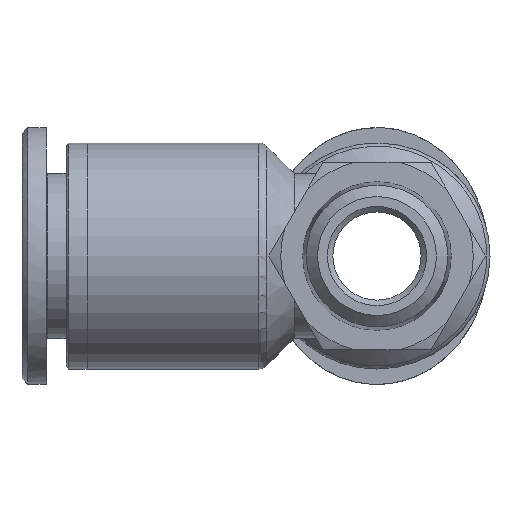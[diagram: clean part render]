
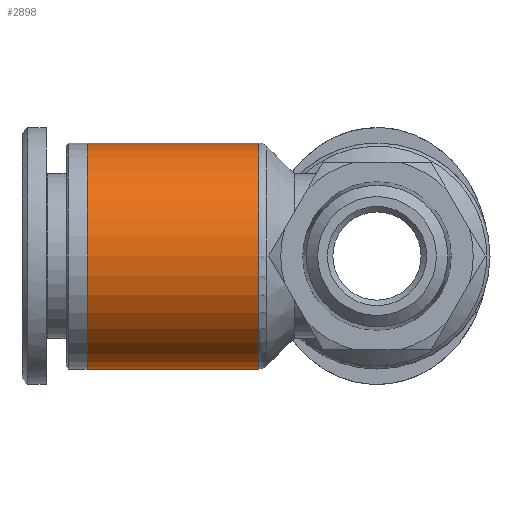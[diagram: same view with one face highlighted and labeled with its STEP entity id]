
A CAD part, front view. The second image highlights one B-rep face of the part: STEP entity #2898.
In plain terms, the highlighted cylindrical face has radius 10.25 mm (diameter 20.5 mm), a full revolution.
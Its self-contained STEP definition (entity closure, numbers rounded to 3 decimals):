
#2660=CARTESIAN_POINT('',(15.591,10.25,0.0));
#2661=VERTEX_POINT('',#2660);
#2662=CARTESIAN_POINT('',(15.591,0.,0.0));
#2663=DIRECTION('',(1.0,0.0,0.0));
#2664=DIRECTION('',(0.0,-1.0,0.0));
#2665=AXIS2_PLACEMENT_3D('',#2662,#2663,#2664);
#2666=CIRCLE('',#2665,10.25);
#2667=EDGE_CURVE('',#2661,#2661,#2666,.T.);
#2879=CARTESIAN_POINT('',(8.,0.,0.0));
#2880=DIRECTION('',(1.0,0.,0.0));
#2881=DIRECTION('',(0.0,1.0,0.0));
#2882=AXIS2_PLACEMENT_3D('',#2879,#2880,#2881);
#2883=CYLINDRICAL_SURFACE('',#2882,10.25);
#2884=CARTESIAN_POINT('',(0.0,10.25,0.0));
#2885=VERTEX_POINT('',#2884);
#2886=CARTESIAN_POINT('',(0.,0.,0.0));
#2887=DIRECTION('',(1.0,0.0,0.0));
#2888=DIRECTION('',(0.0,1.0,0.0));
#2889=AXIS2_PLACEMENT_3D('',#2886,#2887,#2888);
#2890=CIRCLE('',#2889,10.25);
#2891=EDGE_CURVE('',#2885,#2885,#2890,.T.);
#2892=ORIENTED_EDGE('',*,*,#2891,.T.);
#2893=EDGE_LOOP('',(#2892));
#2894=FACE_OUTER_BOUND('',#2893,.T.);
#2895=ORIENTED_EDGE('',*,*,#2667,.F.);
#2896=EDGE_LOOP('',(#2895));
#2897=FACE_BOUND('',#2896,.T.);
#2898=ADVANCED_FACE('',(#2894,#2897),#2883,.T.);
